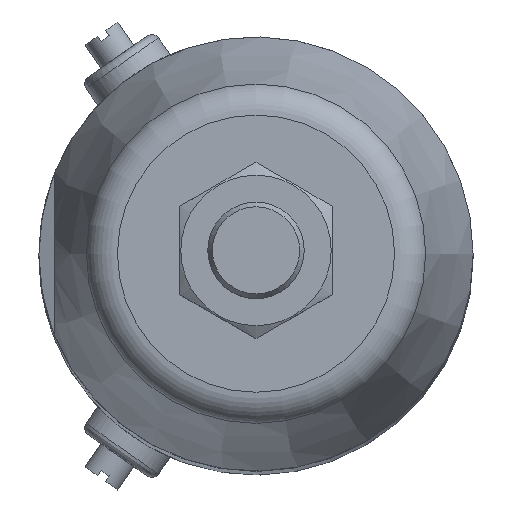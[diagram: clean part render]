
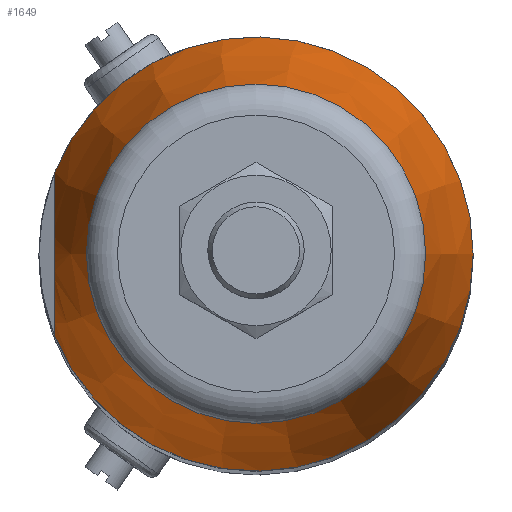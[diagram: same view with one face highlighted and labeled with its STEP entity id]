
A CAD part, top view. The second image highlights one B-rep face of the part: STEP entity #1649.
In plain terms, the highlighted conical face has half-angle 15 degrees and reference radius 24.048 mm.
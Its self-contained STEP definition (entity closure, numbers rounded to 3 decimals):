
#59=(
BOUNDED_CURVE()
B_SPLINE_CURVE(2,(#2779,#2780,#2781),.UNSPECIFIED.,.F.,.F.)
B_SPLINE_CURVE_WITH_KNOTS((3,3),(0.606,3.641),
 .UNSPECIFIED.)
CURVE()
GEOMETRIC_REPRESENTATION_ITEM()
RATIONAL_B_SPLINE_CURVE((1.04,1.123,1.04))
REPRESENTATION_ITEM('')
);
#91=CONICAL_SURFACE('',#1855,24.048,15.);
#398=FACE_BOUND('',#656,.T.);
#486=FACE_OUTER_BOUND('',#655,.T.);
#655=EDGE_LOOP('',(#1411,#1412));
#656=EDGE_LOOP('',(#1413));
#757=CIRCLE('',#1853,27.);
#758=CIRCLE('',#1856,21.096);
#866=VERTEX_POINT('',#2777);
#867=VERTEX_POINT('',#2778);
#887=VERTEX_POINT('',#2877);
#1043=EDGE_CURVE('',#866,#867,#59,.T.);
#1069=EDGE_CURVE('',#867,#866,#757,.T.);
#1070=EDGE_CURVE('',#887,#887,#758,.T.);
#1411=ORIENTED_EDGE('',*,*,#1043,.T.);
#1412=ORIENTED_EDGE('',*,*,#1069,.T.);
#1413=ORIENTED_EDGE('',*,*,#1070,.F.);
#1649=ADVANCED_FACE('',(#486,#398),#91,.T.);
#1853=AXIS2_PLACEMENT_3D('',#2874,#2285,#2286);
#1855=AXIS2_PLACEMENT_3D('',#2876,#2289,#2290);
#1856=AXIS2_PLACEMENT_3D('',#2878,#2291,#2292);
#2285=DIRECTION('center_axis',(-1.,0.,0.));
#2286=DIRECTION('ref_axis',(0.,0.,1.));
#2289=DIRECTION('center_axis',(1.,0.,0.));
#2290=DIRECTION('ref_axis',(0.,0.,1.));
#2291=DIRECTION('center_axis',(-1.,0.,0.));
#2292=DIRECTION('ref_axis',(0.,0.,1.));
#2777=CARTESIAN_POINT('',(-20.,-10.198,25.));
#2778=CARTESIAN_POINT('',(-20.,10.198,25.));
#2779=CARTESIAN_POINT('Ctrl Pts',(-20.,-10.198,25.));
#2780=CARTESIAN_POINT('Ctrl Pts',(-34.375,0.,
25.));
#2781=CARTESIAN_POINT('Ctrl Pts',(-20.,10.198,25.));
#2874=CARTESIAN_POINT('Origin',(-20.,0.,0.));
#2876=CARTESIAN_POINT('Origin',(-31.018,0.,0.));
#2877=CARTESIAN_POINT('',(-42.035,0.,21.096));
#2878=CARTESIAN_POINT('Origin',(-42.035,0.,0.));
